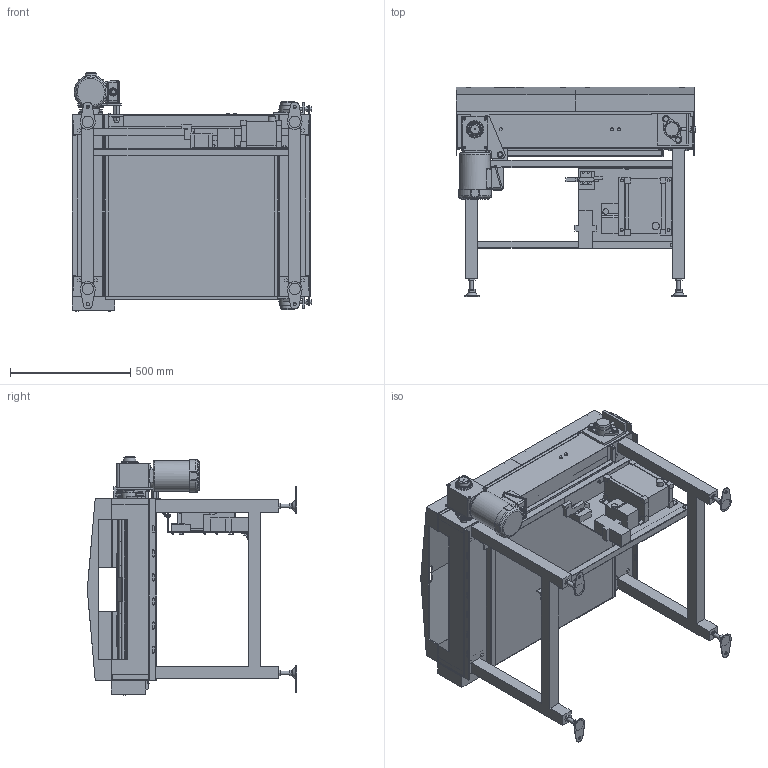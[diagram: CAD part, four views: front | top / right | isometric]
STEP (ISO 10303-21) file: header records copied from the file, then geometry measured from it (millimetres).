
FILE_DESCRIPTION( (''), '2;1');
FILE_NAME ('WEB-SLS-H-340-5-100-100-L-IVH-7.5.stp','2026-08-20T09:04:29',(''),(''),'spGate 21.9.5 (****-****-****-****)','','');
FILE_SCHEMA (('AUTOMOTIVE_DESIGN'));
Length unit declared in the file: millimetre
Products named in the file (83): WEB-SLS-H-340-5-100-100-L-IVH-7.5; TEMP_X_T-prt0; TEMP_X_T-prt1; TEMP_X_T-prt2; TEMP_X_T-prt3; TEMP_X_T-prt4; TEMP_X_T-prt5; TEMP_X_T-prt6; TEMP_X_T-prt7; TEMP_X_T-prt8; TEMP_X_T-prt9; TEMP_X_T-prt10; TEMP_X_T-prt11; TEMP_X_T-prt12; TEMP_X_T-prt13; TEMP_X_T-prt14; TEMP_X_T-prt15; TEMP_X_T-prt16; TEMP_X_T-prt17; TEMP_X_T-prt18; TEMP_X_T-prt19; TEMP_X_T-prt20; TEMP_X_T-prt21; TEMP_X_T-prt22; TEMP_X_T-prt23; TEMP_X_T-prt24; TEMP_X_T-prt25; TEMP_X_T-prt26; TEMP_X_T-prt27; TEMP_X_T-prt28; TEMP_X_T-prt29; TEMP_X_T-prt30; TEMP_X_T-prt31; TEMP_X_T-prt32; TEMP_X_T-prt33; TEMP_X_T-prt34; TEMP_X_T-prt35; TEMP_X_T-prt36; TEMP_X_T-prt37; TEMP_X_T-prt38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
Assembly tree (82 placements, depth 2):
  WEB-SLS-H-340-5-100-100-L-IVH-7.5
    TEMP_X_T-prt0
    TEMP_X_T-prt1
    TEMP_X_T-prt2
    TEMP_X_T-prt3
    TEMP_X_T-prt4
    TEMP_X_T-prt5
    TEMP_X_T-prt6
    TEMP_X_T-prt7
    TEMP_X_T-prt8
    TEMP_X_T-prt9
    TEMP_X_T-prt10
    TEMP_X_T-prt11
    TEMP_X_T-prt12
    TEMP_X_T-prt13
    TEMP_X_T-prt14
    TEMP_X_T-prt15
    TEMP_X_T-prt16
    TEMP_X_T-prt17
    TEMP_X_T-prt18
    TEMP_X_T-prt19
    TEMP_X_T-prt20
    TEMP_X_T-prt21
    TEMP_X_T-prt22
    TEMP_X_T-prt23
    TEMP_X_T-prt24
    TEMP_X_T-prt25
    TEMP_X_T-prt26
    TEMP_X_T-prt27
    TEMP_X_T-prt28
    TEMP_X_T-prt29
    TEMP_X_T-prt30
    TEMP_X_T-prt31
    TEMP_X_T-prt32
    TEMP_X_T-prt33
    TEMP_X_T-prt34
    TEMP_X_T-prt35
    TEMP_X_T-prt36
    TEMP_X_T-prt37
    TEMP_X_T-prt38
    TEMP_X_T-prt39
    TEMP_X_T-prt40
    TEMP_X_T-prt41
    TEMP_X_T-prt42
    TEMP_X_T-prt43
    TEMP_X_T-prt44
    TEMP_X_T-prt45
    TEMP_X_T-prt46
    TEMP_X_T-prt47
    TEMP_X_T-prt48
    TEMP_X_T-prt49
    TEMP_X_T-prt50
    TEMP_X_T-prt51
    TEMP_X_T-prt52
    TEMP_X_T-prt53
    TEMP_X_T-prt54
    TEMP_X_T-prt55
    TEMP_X_T-prt56
    TEMP_X_T-prt57
    TEMP_X_T-prt58
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Bounding box: 996 x 870.6 x 989.5 mm (x, y, z)
Volume: 53185599.4 mm3; surface area: 10487921.8 mm2
Topology: 82 solids, 82 shells, 2902 faces, 7955 edges, 5054 vertices
Faces by surface type: plane 2233, cylinder 550, bspline 115, sphere 4
Full cylindrical faces by diameter (mm): 4 x14, 4.15 x1, 5 x4, 6 x14, 8 x6, 8.376 x4, 8.5 x8, 9 x4, 9.2 x5, 10.5 x4, 11 x4, 11.8 x4, 12 x2, 12.2 x18, 12.5 x21, 13 x8, 14 x8, 15.4 x1, 16 x16, 18 x1, 20 x1, 21 x6, 22.2 x1, 23 x1, 24 x1, 25 x1, 28 x1, 30 x1, 30.5 x1, 34 x1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
Entity records: 158657 total; most frequent: CARTESIAN_POINT 19556, ORIENTED_EDGE 15902, DIRECTION 14981, COLOUR_RGB 10935, PRESENTATION_STYLE_ASSIGNMENT 10935, STYLED_ITEM 10935, EDGE_CURVE 7951, DRAUGHTING_PRE_DEFINED_CURVE_FONT 7951
